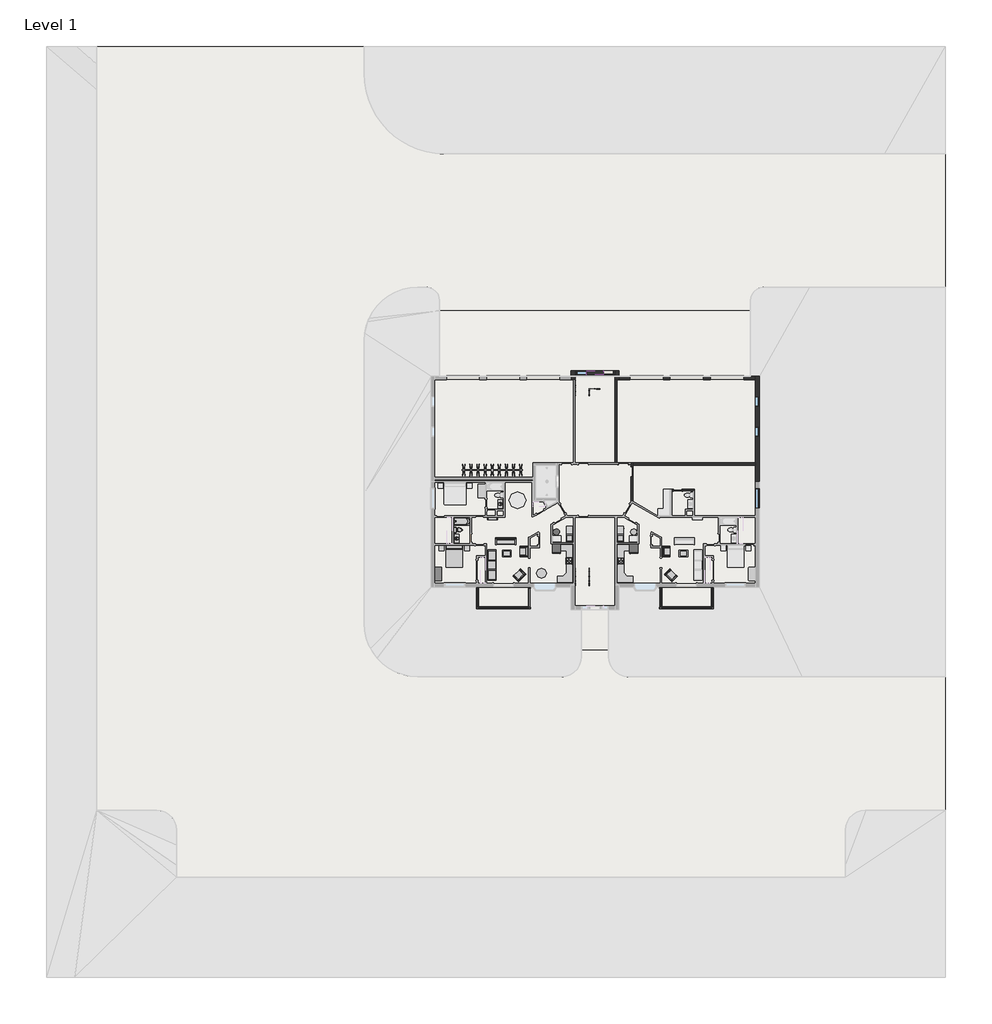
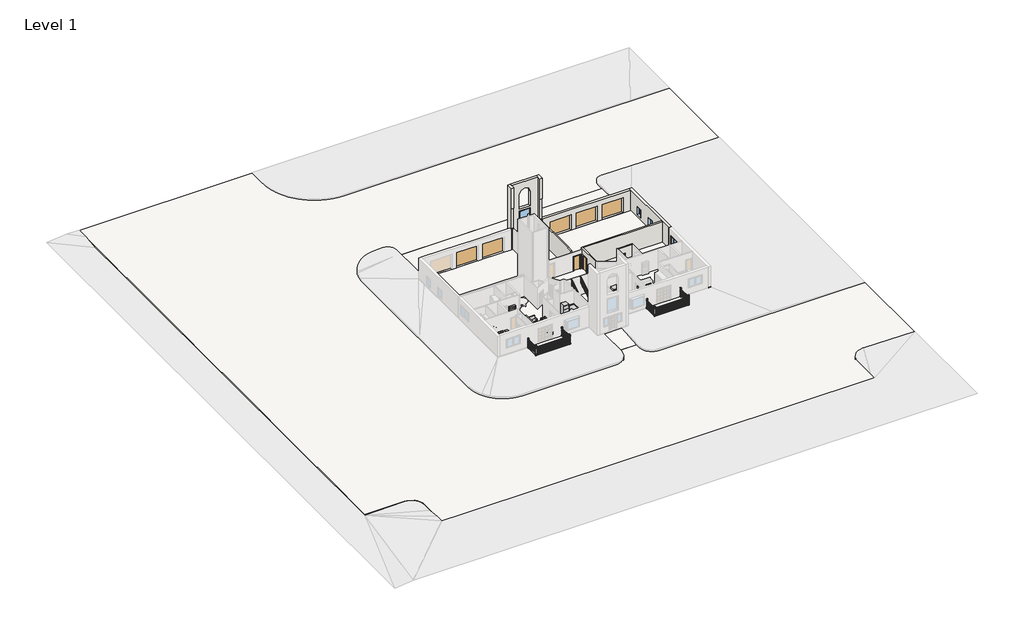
# One storey, part 3 of 4: 18 furniture elements, 15 walls, 9 doors, 8 proxies, 6 railings, 6 slabs, 5 flow terminals, 5 windows.
"""IFC4 building model written with IfcOpenShell, lengths in millimetres."""

from ifc_helpers import new_model, si_unit, point, frame, frame_2d, origin, origin_with_axes, place, context, project, spatial, polyline, circle_curve, trimmed, segment, composite_curve, outline, extrude, faceted_brep, transform, mapped, element, save
from components import proxy_b4d0e45e, proxy_547a9969, proxy_ce4ccb0f, proxy_6e71702f, proxy_a13a33b2, proxy_43ed8386, proxy_718fa39f, proxy_1604710b, overhead_sectional_10_x_8_f8e7c13f, overhead_sectional_10_x_8_1248f1e6, door_39079f6b, door_51669b0d, door_a9778593, flow_terminal_ef44dd1b, flow_terminal_a1ff1c74, flow_terminal_0fc377b3, toilet_domestic_3d_toilet_domestic_3d_f7549cf7, toilet_domestic_3d_toilet_domestic_3d_183bbd19, water_heater_water_heater_e0cc5f81, furniture_e1791683, chair_corbu_chair_corbu_2764bdef, chair_corbu_chair_corbu_95fad79a, furniture_eb782f3a, furniture_bfc3851b, furniture_41abb01d, furniture_3fdbe070, furniture_2babcf72, entertainment_center_entertainment_center_59f9536b, furniture_417d203a, furniture_a4ffab56, furniture_5f90431c, furniture_32e53e92, furniture_905aceb5, furniture_097b63cf, furniture_50b11ffb, railing_9fa31439, railing_f539a773, railing_9861355d, railing_b1776e66, handrail_rectangular_7fb33515, handrail_rectangular_47b17547, handrail_rectangular_1c47a4d4, handrail_rectangular_6b034ff7, window_801eb773, window_c3f4fc83, window_0e2fc6ce, window_69481220

model = new_model("IFC4")

# Units and contexts
model_context = context("Model", 3, world=origin())
ifc_project = project(units=[si_unit("LENGTHUNIT", "METRE", prefix="MILLI")], contexts=[model_context])

# Site, building, storey
site = spatial("IfcSite", under=ifc_project)
building = spatial("IfcBuilding", under=site)
storey = spatial("IfcBuildingStorey", under=building, Name="Level 1", Elevation=0.0)

# Proxies
placement = place(None, origin())
proxy_shape = proxy_b4d0e45e(model_context)
element("IfcBuildingElementProxy", 1, Name="Dryer : 27\" x 25\" x 35\"", ObjectType="Dryer : 27\" x 25\" x 35\"", at=placement, inside=storey, context=model_context, shape_type="MappedRepresentation", body=[
    mapped(proxy_shape, transform((-3234.3985436, -2231.7690464, 0.0), x_axis=(0.0, -1.0, 0.0), y_axis=(1.0, 0.0, 0.0), z_axis=(0.0, 0.0, 1.0))),
])
proxy_2_shape = proxy_547a9969(model_context)
element("IfcBuildingElementProxy", 2, Name="Dryer : 27\" x 25\" x 35\"", ObjectType="Dryer : 27\" x 25\" x 35\"", at=placement, inside=storey, context=model_context, shape_type="MappedRepresentation", body=[
    mapped(proxy_2_shape, transform((1970.098464, -2231.7690464, 0.0), x_axis=(0.0, -1.0, 0.0), y_axis=(1.0, 0.0, 0.0), z_axis=(0.0, 0.0, 1.0))),
])
proxy_3_shape = proxy_ce4ccb0f(model_context)
element("IfcBuildingElementProxy", 3, Name="Range : 24\" x 24\"", ObjectType="Range : 24\" x 24\"", at=placement, inside=storey, context=model_context, shape_type="MappedRepresentation", body=[
    mapped(proxy_3_shape, transform((-3276.9250398, -5133.6661799, 0.0), x_axis=(0.0, -1.0, 0.0), y_axis=(1.0, 0.0, 0.0), z_axis=(0.0, 0.0, 1.0))),
])
proxy_4_shape = proxy_6e71702f(model_context)
element("IfcBuildingElementProxy", 4, Name="Range : 24\" x 24\"", ObjectType="Range : 24\" x 24\"", at=placement, inside=storey, context=model_context, shape_type="MappedRepresentation", body=[
    mapped(proxy_4_shape, transform((2012.6249602, -5133.6661799, 0.0), x_axis=(0.0, -1.0, 0.0), y_axis=(1.0, 0.0, 0.0), z_axis=(0.0, 0.0, 1.0))),
])
proxy_5_shape = proxy_a13a33b2(model_context)
element("IfcBuildingElementProxy", 5, Name="Refrigerator : 30\" x 32\" RH", ObjectType="Refrigerator : 30\" x 32\" RH", at=placement, inside=storey, context=model_context, shape_type="MappedRepresentation", body=[
    mapped(proxy_5_shape, transform((-4157.9875398, -4328.4151514, 0.0), x_axis=(1.0, 0.0, 0.0), y_axis=(0.0, 1.0, 0.0), z_axis=(0.0, 0.0, 1.0))),
])
proxy_6_shape = proxy_43ed8386(model_context)
element("IfcBuildingElementProxy", 6, Name="Refrigerator : 30\" x 32\" RH", ObjectType="Refrigerator : 30\" x 32\" RH", at=placement, inside=storey, context=model_context, shape_type="MappedRepresentation", body=[
    mapped(proxy_6_shape, transform((2893.6874602, -4328.4151514, 0.0), x_axis=(-1.0, 0.0, 0.0), y_axis=(0.0, -1.0, 0.0), z_axis=(0.0, 0.0, 1.0))),
])
proxy_7_shape = proxy_718fa39f(model_context)
element("IfcBuildingElementProxy", 7, Name="Washer : 27\" x 25\" x 35\"", ObjectType="Washer : 27\" x 25\" x 35\"", at=placement, inside=storey, context=model_context, shape_type="MappedRepresentation", body=[
    mapped(proxy_7_shape, transform((-3198.8871046, -2945.9890343, 0.0), x_axis=(0.0, -1.0, 0.0), y_axis=(1.0, 0.0, 0.0), z_axis=(0.0, 0.0, 1.0))),
])
proxy_8_shape = proxy_1604710b(model_context)
element("IfcBuildingElementProxy", 8, Name="Washer : 27\" x 25\" x 35\"", ObjectType="Washer : 27\" x 25\" x 35\"", at=placement, inside=storey, context=model_context, shape_type="MappedRepresentation", body=[
    mapped(proxy_8_shape, transform((1934.587025, -2945.9890343, 0.0), x_axis=(0.0, -1.0, 0.0), y_axis=(1.0, 0.0, 0.0), z_axis=(0.0, 0.0, 1.0))),
])

# Doors
overhead_sectional_10_x_8_shape = overhead_sectional_10_x_8_f8e7c13f(model_context)
element("IfcDoor", 9, ObjectType="Overhead-Sectional : 10' x 8'", at=placement, inside=storey, context=model_context, shape_type="MappedRepresentation", body=[
    mapped(overhead_sectional_10_x_8_shape, transform((-9010.9750398, 11238.2213201, 0.0), x_axis=(-1.0, 0.0, 0.0), y_axis=(0.0, -1.0, 0.0), z_axis=(0.0, 0.0, 1.0))),
])
element("IfcDoor", 10, ObjectType="Overhead-Sectional : 10' x 8'", at=placement, inside=storey, context=model_context, shape_type="MappedRepresentation", body=[
    mapped(overhead_sectional_10_x_8_shape, transform((-5353.3750398, 11238.2213201, 0.0), x_axis=(-1.0, 0.0, 0.0), y_axis=(0.0, -1.0, 0.0), z_axis=(0.0, 0.0, 1.0))),
])
overhead_sectional_10_x_8_2_shape = overhead_sectional_10_x_8_1248f1e6(model_context)
element("IfcDoor", 11, ObjectType="Overhead-Sectional : 10' x 8'", at=placement, inside=storey, context=model_context, shape_type="MappedRepresentation", body=[
    mapped(overhead_sectional_10_x_8_2_shape, transform((11404.2749602, 11238.2213201, 0.0), x_axis=(1.0, 0.0, 0.0), y_axis=(0.0, 1.0, 0.0), z_axis=(0.0, 0.0, 1.0))),
])
element("IfcDoor", 12, ObjectType="Overhead-Sectional : 10' x 8'", at=placement, inside=storey, context=model_context, shape_type="MappedRepresentation", body=[
    mapped(overhead_sectional_10_x_8_2_shape, transform((7746.6749602, 11238.2213201, 0.0), x_axis=(1.0, 0.0, 0.0), y_axis=(0.0, 1.0, 0.0), z_axis=(0.0, 0.0, 1.0))),
])
element("IfcDoor", 13, ObjectType="Overhead-Sectional : 10' x 8'", at=placement, inside=storey, context=model_context, shape_type="MappedRepresentation", body=[
    mapped(overhead_sectional_10_x_8_2_shape, transform((4089.0749602, 11238.2213201, 0.0), x_axis=(1.0, 0.0, 0.0), y_axis=(0.0, 1.0, 0.0), z_axis=(0.0, 0.0, 1.0))),
])
door_shape = door_39079f6b(model_context)
element("IfcDoor", 14, ObjectType="Single-Flush : 30\" x 80\"", at=placement, inside=storey, context=model_context, shape_type="MappedRepresentation", body=[
    mapped(door_shape, transform((6914.8249602, 1017.8963201, 0.0), x_axis=(-1.0, 0.0, 0.0), y_axis=(0.0, -1.0, 0.0), z_axis=(0.0, 0.0, 1.0))),
])
door_2_shape = door_51669b0d(model_context)
element("IfcDoor", 15, ObjectType="Single-Flush : 36\" x 84\"", at=placement, inside=storey, context=model_context, shape_type="MappedRepresentation", body=[
    mapped(door_2_shape, transform((1961.8249602, 3425.0349624, 0.0), x_axis=(-1.0, 0.0, 0.0), y_axis=(0.0, -1.0, 0.0), z_axis=(0.0, 0.0, 1.0))),
])
element("IfcDoor", 16, ObjectType="Single-Flush : 36\" x 84\"", at=placement, inside=storey, context=model_context, shape_type="MappedRepresentation", body=[
    mapped(door_2_shape, transform((2738.9648827, 2693.1974624, 0.0), x_axis=(0.0, 1.0, 0.0), y_axis=(-1.0, 0.0, 0.0), z_axis=(0.0, 0.0, 1.0))),
])
door_3_shape = door_a9778593(model_context)
element("IfcDoor", 17, ObjectType="Single-Glass 2 : 36\" x 84\"", at=placement, inside=storey, context=model_context, shape_type="MappedRepresentation", body=[
    mapped(door_3_shape, transform((561.6499602, 11715.9922491, 0.0), x_axis=(1.0, 0.0, 0.0), y_axis=(0.0, 1.0, 0.0), z_axis=(0.0, 0.0, 1.0))),
])

# Flow terminals
flow_terminal_shape = flow_terminal_ef44dd1b(model_context)
element("IfcFlowTerminal", 18, ObjectType="Bath_Tubrfa_5482 : 60\"x30\" - Private", at=placement, inside=storey, context=model_context, shape_type="MappedRepresentation", body=[
    mapped(flow_terminal_shape, transform((-13535.3500398, -2207.9036799, 0.0), x_axis=(1.0, 0.0, 0.0), y_axis=(0.0, 1.0, 0.0), z_axis=(0.0, 0.0, 1.0))),
])
flow_terminal_2_shape = flow_terminal_a1ff1c74(model_context)
element("IfcFlowTerminal", 19, ObjectType="Lavatory - Vanity : 30\"x18\" - Private", at=placement, inside=storey, context=model_context, shape_type="MappedRepresentation", body=[
    mapped(flow_terminal_2_shape, transform((-13535.3500398, -3401.7036799, 0.0), x_axis=(1.0, 0.0, 0.0), y_axis=(0.0, 1.0, 0.0), z_axis=(0.0, 0.0, 1.0))),
])
flow_terminal_3_shape = flow_terminal_0fc377b3(model_context)
element("IfcFlowTerminal", 20, ObjectType="Lavatory - Vanity : 30\"x18\" - Private", at=placement, inside=storey, context=model_context, shape_type="MappedRepresentation", body=[
    mapped(flow_terminal_3_shape, transform((-8988.7500398, -237.8161799, 0.0), x_axis=(-1.0, 0.0, 0.0), y_axis=(0.0, -1.0, 0.0), z_axis=(0.0, 0.0, 1.0))),
])
toilet_domestic_3d_toilet_domestic_3d_shape = toilet_domestic_3d_toilet_domestic_3d_f7549cf7(model_context)
toilet_domestic_3d_toilet_domestic_3d_2_shape = toilet_domestic_3d_toilet_domestic_3d_183bbd19(model_context)
element("IfcFlowTerminal", 21, ObjectType="Toilet-Domestic-3D : Toilet-Domestic-3D", at=placement, inside=storey, context=model_context, shape_type="MappedRepresentation", body=[
    mapped(toilet_domestic_3d_toilet_domestic_3d_shape, transform((-13040.6540125, -2614.3036799, 0.0), x_axis=(0.0, 1.0, 0.0), y_axis=(-1.0, 0.0, 0.0), z_axis=(0.0, 0.0, 1.0))),
    mapped(toilet_domestic_3d_toilet_domestic_3d_2_shape, transform((-13040.6540125, -2614.3036799, 0.0), x_axis=(0.0, 1.0, 0.0), y_axis=(-1.0, 0.0, 0.0), z_axis=(0.0, 0.0, 1.0))),
])
water_heater_water_heater_shape = water_heater_water_heater_e0cc5f81(model_context)
element("IfcFlowTerminal", 22, ObjectType="Water Heater : Water Heater", at=placement, inside=storey, context=model_context, shape_type="MappedRepresentation", body=[
    mapped(water_heater_water_heater_shape, transform((-4169.1000398, -2796.5261032, 0.0), x_axis=(0.0, 1.0, 0.0), y_axis=(-1.0, 0.0, 0.0), z_axis=(0.0, 0.0, 1.0))),
])

# Furniture
furniture_shape = furniture_e1791683(model_context)
element("IfcFurniture", 23, ObjectType="Bed-Standard : Queen 60\" x 79\"", at=placement, inside=storey, context=model_context, shape_type="MappedRepresentation", body=[
    mapped(furniture_shape, transform((-13741.7510644, -4962.6585979, 0.0), x_axis=(1.0, 0.0, 0.0), y_axis=(0.0, 1.0, 0.0), z_axis=(0.0, 0.0, 1.0))),
])
chair_corbu_chair_corbu_shape = chair_corbu_chair_corbu_2764bdef(model_context)
element("IfcFurniture", 24, ObjectType="Chair-Corbu : Chair-Corbu", at=placement, inside=storey, context=model_context, shape_type="MappedRepresentation", body=[
    mapped(chair_corbu_chair_corbu_shape, transform((-7464.767053, -6027.7567068, 0.0), x_axis=(-0.7071067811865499, -0.7071067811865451, 0.0), y_axis=(0.7071067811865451, -0.7071067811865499, 0.0), z_axis=(0.0, 0.0, 1.0))),
])
element("IfcFurniture", 25, ObjectType="Chair-Corbu : Chair-Corbu", at=placement, inside=storey, context=model_context, shape_type="MappedRepresentation", body=[
    mapped(chair_corbu_chair_corbu_shape, transform((-7590.214589, -4004.6674094, 0.0), x_axis=(0.0, -1.0, 0.0), y_axis=(1.0, 0.0, 0.0), z_axis=(0.0, 0.0, 1.0))),
])
chair_corbu_chair_corbu_2_shape = chair_corbu_chair_corbu_95fad79a(model_context)
element("IfcFurniture", 26, ObjectType="Chair-Corbu : Chair-Corbu", at=placement, inside=storey, context=model_context, shape_type="MappedRepresentation", body=[
    mapped(chair_corbu_chair_corbu_2_shape, transform((6200.4669734, -6027.7567068, 0.0), x_axis=(0.7071067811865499, -0.7071067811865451, 0.0), y_axis=(0.7071067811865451, 0.7071067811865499, 0.0), z_axis=(0.0, 0.0, 1.0))),
])
element("IfcFurniture", 27, ObjectType="Chair-Corbu : Chair-Corbu", at=placement, inside=storey, context=model_context, shape_type="MappedRepresentation", body=[
    mapped(chair_corbu_chair_corbu_2_shape, transform((6325.9145094, -4004.6674094, 0.0), x_axis=(0.0, -1.0, 0.0), y_axis=(1.0, 0.0, 0.0), z_axis=(0.0, 0.0, 1.0))),
])
furniture_2_shape = furniture_eb782f3a(model_context)
element("IfcFurniture", 28, ObjectType="Counter Top-L Shaped 2 : 24\" Depth", at=placement, inside=storey, context=model_context, shape_type="MappedRepresentation", body=[
    mapped(furniture_2_shape, transform((-2616.5250398, -6270.0038848, 0.0), x_axis=(0.0, 1.0, 0.0), y_axis=(-1.0, 0.0, 0.0), z_axis=(0.0, 0.0, 1.0))),
])
furniture_3_shape = furniture_bfc3851b(model_context)
element("IfcFurniture", 29, ObjectType="Counter Top-L Shaped 2 : 24\" Depth", at=placement, inside=storey, context=model_context, shape_type="MappedRepresentation", body=[
    mapped(furniture_3_shape, transform((1352.2249602, -6270.0038848, 0.0), x_axis=(0.0, 1.0, 0.0), y_axis=(-1.0, 0.0, 0.0), z_axis=(0.0, 0.0, 1.0))),
])
furniture_4_shape = furniture_41abb01d(model_context)
element("IfcFurniture", 30, ObjectType="Counter Top-L Shaped : 24\" Depth", at=placement, inside=storey, context=model_context, shape_type="MappedRepresentation", body=[
    mapped(furniture_4_shape, transform((-2616.5250398, -5089.528475, 0.0), x_axis=(0.0, -1.0, 0.0), y_axis=(1.0, 0.0, 0.0), z_axis=(0.0, 0.0, 1.0))),
])
furniture_5_shape = furniture_3fdbe070(model_context)
element("IfcFurniture", 31, ObjectType="Counter Top-L Shaped : 24\" Depth", at=placement, inside=storey, context=model_context, shape_type="MappedRepresentation", body=[
    mapped(furniture_5_shape, transform((1352.2249602, -5089.528475, 0.0), x_axis=(0.0, -1.0, 0.0), y_axis=(1.0, 0.0, 0.0), z_axis=(0.0, 0.0, 1.0))),
])
furniture_6_shape = furniture_2babcf72(model_context)
element("IfcFurniture", 32, ObjectType="Dresser : 48\" x 60\" x 24\"", at=placement, inside=storey, context=model_context, shape_type="MappedRepresentation", body=[
    mapped(furniture_6_shape, transform((-15317.7379939, -6359.8979201, 0.0), x_axis=(0.0, 1.0, 0.0), y_axis=(-1.0, 0.0, 0.0), z_axis=(0.0, 0.0, 1.0))),
])
entertainment_center_entertainment_center_shape = entertainment_center_entertainment_center_59f9536b(model_context)
element("IfcFurniture", 33, ObjectType="Entertainment Center : Entertainment Center", at=placement, inside=storey, context=model_context, shape_type="MappedRepresentation", body=[
    mapped(entertainment_center_entertainment_center_shape, transform((-9623.7500398, -5817.8786799, 0.0), x_axis=(0.0, -1.0, 0.0), y_axis=(1.0, 0.0, 0.0), z_axis=(0.0, 0.0, 1.0))),
])
furniture_7_shape = furniture_417d203a(model_context)
element("IfcFurniture", 34, ObjectType="Shelving : 36\" x 10\" x 72\"", at=placement, inside=storey, context=model_context, shape_type="MappedRepresentation", body=[
    mapped(furniture_7_shape, transform((-9993.6375398, -1256.9911799, 0.0), x_axis=(1.0, 0.0, 0.0), y_axis=(0.0, 1.0, 0.0), z_axis=(0.0, 0.0, 1.0))),
])
furniture_8_shape = furniture_a4ffab56(model_context)
element("IfcFurniture", 35, ObjectType="Sofa : 72\"", at=placement, inside=storey, context=model_context, shape_type="MappedRepresentation", body=[
    mapped(furniture_8_shape, transform((-8844.8080316, -3805.0327783, 0.0), x_axis=(1.0, 0.0, 0.0), y_axis=(0.0, 1.0, 0.0), z_axis=(0.0, 0.0, 1.0))),
])
furniture_9_shape = furniture_5f90431c(model_context)
element("IfcFurniture", 36, ObjectType="Table-Coffee : 31\" x 28\" x 24\"", at=placement, inside=storey, context=model_context, shape_type="MappedRepresentation", body=[
    mapped(furniture_9_shape, transform((-8603.026462, -4770.9319466, 0.0), x_axis=(0.0, 1.0, 0.0), y_axis=(-1.0, 0.0, 0.0), z_axis=(0.0, 0.0, 1.0))),
])
furniture_10_shape = furniture_32e53e92(model_context)
element("IfcFurniture", 37, ObjectType="Table-Coffee : 31\" x 28\" x 24\"", at=placement, inside=storey, context=model_context, shape_type="MappedRepresentation", body=[
    mapped(furniture_10_shape, transform((7338.7263824, -4770.9319466, 0.0), x_axis=(0.0, 1.0, 0.0), y_axis=(-1.0, 0.0, 0.0), z_axis=(0.0, 0.0, 1.0))),
])
furniture_11_shape = furniture_905aceb5(model_context)
element("IfcFurniture", 38, ObjectType="Table-Dining Round w Chairs : 36\" Diameter", at=placement, inside=storey, context=model_context, shape_type="MappedRepresentation", body=[
    mapped(furniture_11_shape, transform((-5558.4272921, -6771.2218764, 0.0), x_axis=(-0.7071067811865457, 0.7071067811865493, 0.0), y_axis=(-0.7071067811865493, -0.7071067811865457, 0.0), z_axis=(0.0, 0.0, 1.0))),
])
furniture_12_shape = furniture_097b63cf(model_context)
element("IfcFurniture", 39, ObjectType="Table-Night Stand : 18\" x 18\" x 24\"", at=placement, inside=storey, context=model_context, shape_type="MappedRepresentation", body=[
    mapped(furniture_12_shape, transform((-14845.5961701, -4524.0661799, 0.0), x_axis=(1.0, 0.0, 0.0), y_axis=(0.0, 1.0, 0.0), z_axis=(0.0, 0.0, 1.0))),
])
furniture_13_shape = furniture_50b11ffb(model_context)
element("IfcFurniture", 40, ObjectType="Table-Night Stand : 18\" x 18\" x 24\"", at=placement, inside=storey, context=model_context, shape_type="MappedRepresentation", body=[
    mapped(furniture_13_shape, transform((-12094.9289095, -4524.0661799, 0.0), x_axis=(-1.0, 0.0, 0.0), y_axis=(0.0, -1.0, 0.0), z_axis=(0.0, 0.0, 1.0))),
])

# Railings
railing_shape = railing_9fa31439(model_context)
railing_2_shape = railing_f539a773(model_context)
element("IfcRailing", 41, ObjectType="Deco Type", at=placement, inside=storey, context=model_context, shape_type="MappedRepresentation", body=[
    mapped(railing_shape, transform((0.0, 0.0, 0.0), x_axis=(1.0, 0.0, 0.0), y_axis=(0.0, 1.0, 0.0), z_axis=(0.0, 0.0, 1.0))),
    mapped(railing_2_shape, transform((0.0, 0.0, 0.0), x_axis=(1.0, 0.0, 0.0), y_axis=(0.0, 1.0, 0.0), z_axis=(0.0, 0.0, 1.0))),
])
railing_3_shape = railing_9861355d(model_context)
railing_4_shape = railing_b1776e66(model_context)
element("IfcRailing", 42, ObjectType="Deco Type", at=placement, inside=storey, context=model_context, shape_type="MappedRepresentation", body=[
    mapped(railing_3_shape, transform((0.0, 0.0, 0.0), x_axis=(1.0, 0.0, 0.0), y_axis=(0.0, 1.0, 0.0), z_axis=(0.0, 0.0, 1.0))),
    mapped(railing_4_shape, transform((0.0, 0.0, 0.0), x_axis=(1.0, 0.0, 0.0), y_axis=(0.0, 1.0, 0.0), z_axis=(0.0, 0.0, 1.0))),
])
handrail_rectangular_shape = handrail_rectangular_7fb33515(model_context)
element("IfcRailing", 43, ObjectType="Handrail - Rectangular", at=placement, inside=storey, context=model_context, shape_type="MappedRepresentation", body=[
    mapped(handrail_rectangular_shape, transform((0.0, 0.0, 0.0), x_axis=(1.0, 0.0, 0.0), y_axis=(0.0, 1.0, 0.0), z_axis=(0.0, 0.0, 1.0))),
])
handrail_rectangular_2_shape = handrail_rectangular_47b17547(model_context)
element("IfcRailing", 44, ObjectType="Handrail - Rectangular", at=placement, inside=storey, context=model_context, shape_type="MappedRepresentation", body=[
    mapped(handrail_rectangular_2_shape, transform((0.0, 0.0, 0.0), x_axis=(1.0, 0.0, 0.0), y_axis=(0.0, 1.0, 0.0), z_axis=(0.0, 0.0, 1.0))),
])
handrail_rectangular_3_shape = handrail_rectangular_1c47a4d4(model_context)
element("IfcRailing", 45, ObjectType="Handrail - Rectangular", at=placement, inside=storey, context=model_context, shape_type="MappedRepresentation", body=[
    mapped(handrail_rectangular_3_shape, transform((0.0, 0.0, 0.0), x_axis=(1.0, 0.0, 0.0), y_axis=(0.0, 1.0, 0.0), z_axis=(0.0, 0.0, 1.0))),
])
handrail_rectangular_4_shape = handrail_rectangular_6b034ff7(model_context)
element("IfcRailing", 46, ObjectType="Handrail - Rectangular", at=placement, inside=storey, context=model_context, shape_type="MappedRepresentation", body=[
    mapped(handrail_rectangular_4_shape, transform((0.0, 0.0, 0.0), x_axis=(1.0, 0.0, 0.0), y_axis=(0.0, 1.0, 0.0), z_axis=(0.0, 0.0, 1.0))),
])

# Slabs
element("IfcSlab", 47, ObjectType="Generic - 12\"", at=placement, inside=storey, context=model_context, shape_type="SweptSolid", body=[
    extrude(outline(polyline([(-11387.4625398, -7635.5661799), (-15424.4750398, -7635.5661799), (-15424.4750398, 1744.9713201), (-6331.2750398, 1744.9713201), (-6331.2750398, 41.0951778), (-5327.4917096, 41.0951778), (-4955.4044712, -603.3788241), (-3977.9107726, -39.0225741), (-3207.8085908, -1372.8786799), (-2589.5375398, -1372.8786799), (-2589.5375398, -7635.5661799), (-6578.9250398, -7635.5661799), (-6578.9250398, -9769.1661799), (-11387.4625398, -9769.1661799), (-11387.4625398, -7635.5661799)])), frame((0.0, 0.0, -304.8), z_axis=(0.0, 0.0, 1.0), x_axis=(1.0, 0.0, 0.0)), (0.0, 0.0, 1.0), 304.8),
])
element("IfcSlab", 48, ObjectType="Generic - 12\"", at=placement, inside=storey, context=model_context, shape_type="SweptSolid", body=[
    extrude(outline(polyline([(10123.1624602, -7470.4661799), (10123.1624602, -9769.1661799), (5314.6249602, -9769.1661799), (5314.6249602, -7470.4661799), (1274.4374602, -7470.4661799), (1274.4374602, -1372.8786799), (1943.5085112, -1372.8786799), (2721.548193, -25.2744208), (5088.6628062, -1391.9286799), (13995.0749602, -1391.9286799), (13995.0749602, -7470.4661799), (10123.1624602, -7470.4661799)])), frame((0.0, 0.0, -304.8), z_axis=(0.0, 0.0, 1.0), x_axis=(1.0, 0.0, 0.0)), (0.0, 0.0, 1.0), 304.8),
])
element("IfcSlab", 49, ObjectType="Generic - 12\"", at=placement, inside=storey, context=model_context, shape_type="SweptSolid", body=[
    extrude(outline(polyline([(-15259.3750398, 11062.0088201), (-2460.9500398, 11062.0088201), (-2460.9500398, 11539.7797491), (1196.6499602, 11539.7797491), (1196.6499602, 11062.0088201), (13995.0749602, 11062.0088201), (13995.0749602, -1391.9286799), (5072.7878062, -1391.9286799), (2717.579443, -32.1484974), (1943.5085112, -1372.8786799), (1274.4374602, -1372.8786799), (1274.4374602, -7635.5661799), (1196.6499602, -7635.5661799), (1196.6499602, -9538.4234666), (-2460.9500398, -9538.4234666), (-2460.9500398, -7635.5661799), (-2538.7375398, -7635.5661799), (-2538.7375398, -1372.8786799), (-3207.8085908, -1372.8786799), (-3931.8274624, -118.8412087), (-3931.8274624, 3496.4724624), (-6277.3000398, 3496.4724624), (-6277.3000398, 1795.7713201), (-15259.3750398, 1795.7713201), (-15259.3750398, 11062.0088201)])), frame((0.0, 0.0, -304.8), z_axis=(0.0, 0.0, 1.0), x_axis=(1.0, 0.0, 0.0)), (0.0, 0.0, 1.0), 304.8),
])
element("IfcSlab", 50, ObjectType="Parking", at=placement, inside=storey, context=model_context, shape_type="SweptSolid", body=[
    extrude(outline(composite_curve([segment(polyline([(-46091.8000398, -28178.8484666), (-46091.8000398, 41455.0931951), (-21707.8000398, 41455.0931951), (-21707.8000398, 39016.6931951)]), True, "CONTINUOUS"), segment(trimmed(circle_curve(frame_2d((-14392.6000398, 39016.6931951)), 7315.2), [point((-21707.8000398, 39016.6931951))], [point((-14392.6000398, 31701.4931951))], True, "CARTESIAN"), True, "CONTINUOUS"), segment(polyline([(-14392.6000398, 31701.4931951), (31327.3999602, 31701.4931951), (31327.3999602, 19509.4931951), (14757.0749602, 19509.4931951)]), True, "CONTINUOUS"), segment(trimmed(circle_curve(frame_2d((14757.0749602, 18290.2931951)), 1219.2), [point((14757.0749602, 19509.4931951))], [point((13537.8749602, 18290.2931951))], True, "CARTESIAN"), True, "CONTINUOUS"), segment(polyline([(13537.8749602, 18290.2931951), (13537.8749602, 17378.6047491), (-14802.1750398, 17378.6047491), (-14802.1750398, 18290.2931951)]), True, "CONTINUOUS"), segment(trimmed(circle_curve(frame_2d((-16021.3750398, 18290.2931951)), 1219.2), [point((-14802.1750398, 18290.2931951))], [point((-16021.3750398, 19509.4931951))], True, "CARTESIAN"), True, "CONTINUOUS"), segment(polyline([(-16021.3750398, 19509.4931951), (-16831.0000398, 19509.4931951)]), True, "CONTINUOUS"), segment(trimmed(circle_curve(frame_2d((-16831.0000398, 14632.6931951)), 4876.8), [point((-16831.0000398, 19509.4931951))], [point((-21707.8000398, 14632.6931951))], True, "CARTESIAN"), True, "CONTINUOUS"), segment(polyline([(-21707.8000398, 14632.6931951), (-21707.8000398, -11110.0484666)]), True, "CONTINUOUS"), segment(trimmed(circle_curve(frame_2d((-16831.0000398, -11110.0484666)), 4876.8), [point((-21707.8000398, -11110.0484666))], [point((-16831.0000398, -15986.8484666))], True, "CARTESIAN"), True, "CONTINUOUS"), segment(polyline([(-16831.0000398, -15986.8484666), (-3680.1500398, -15986.8484666)]), True, "CONTINUOUS"), segment(trimmed(circle_curve(frame_2d((-3680.1500398, -14158.0484666)), 1828.8), [point((-3680.1500398, -15986.8484666))], [point((-1851.3500398, -14158.0484666))], True, "CARTESIAN"), True, "CONTINUOUS"), segment(polyline([(-1851.3500398, -14158.0484666), (-1851.3500398, -13548.4484666), (587.0499602, -13548.4484666), (587.0499602, -14158.0484666)]), True, "CONTINUOUS"), segment(trimmed(circle_curve(frame_2d((2415.8499602, -14158.0484666)), 1828.8), [point((587.0499602, -14158.0484666))], [point((2415.8499602, -15986.8484666))], True, "CARTESIAN"), True, "CONTINUOUS"), segment(polyline([(2415.8499602, -15986.8484666), (31327.3999602, -15986.8484666), (31327.3999602, -28178.8484666), (24012.1999602, -28178.8484666)]), True, "CONTINUOUS"), segment(trimmed(circle_curve(frame_2d((24012.1999602, -30007.6484666)), 1828.8), [point((24012.1999602, -28178.8484666))], [point((22183.3999602, -30007.6484666))], True, "CARTESIAN"), True, "CONTINUOUS"), segment(polyline([(22183.3999602, -30007.6484666), (22183.3999602, -34274.8484666), (-38776.6000398, -34274.8484666), (-38776.6000398, -30007.6484666)]), True, "CONTINUOUS"), segment(trimmed(circle_curve(frame_2d((-40605.4000398, -30007.6484666)), 1828.8), [point((-38776.6000398, -30007.6484666))], [point((-40605.4000398, -28178.8484666))], True, "CARTESIAN"), True, "CONTINUOUS"), segment(polyline([(-40605.4000398, -28178.8484666), (-46091.8000398, -28178.8484666)]), True, "CONTINUOUS")], self_intersect=False)), frame((0.0, 0.0, -711.2), z_axis=(0.0, 0.0, 1.0), x_axis=(1.0, 0.0, 0.0)), (0.0, 0.0, 1.0), 304.8),
])
element("IfcSlab", 51, ObjectType="Parking", at=placement, inside=storey, context=model_context, shape_type="SweptSolid", body=[
    extrude(outline(polyline([(17378.6047491, -711.5977695), (11414.4338201, -406.7977695), (11414.4338201, -101.6), (17378.6047491, -406.4), (17378.6047491, -711.5977695)])), frame((-14802.1750398, 0.0, 0.0), z_axis=(1.0, 0.0, 0.0), x_axis=(0.0, 1.0, 0.0)), (0.0, 0.0, 1.0), 28340.05),
])
element("IfcSlab", 52, ObjectType="Parking", at=placement, inside=storey, context=model_context, shape_type="SweptSolid", body=[
    extrude(outline(polyline([(-9916.2484666, -407.4713043), (-13548.4484666, -712.2713043), (-13548.4484666, -406.4), (-9916.2484666, -101.6), (-9916.2484666, -407.4713043)])), frame((-1851.3500398, 0.0, 0.0), z_axis=(1.0, 0.0, 0.0), x_axis=(0.0, 1.0, 0.0)), (0.0, 0.0, 1.0), 2438.4),
])

# Walls
element("IfcWall", 53, ObjectType="Exterior - Brick on Mtl. Stud", at=placement, inside=storey, context=model_context, shape_type="Brep", body=[
    faceted_brep([(-2460.9500398, 11062.0088201, 0.0), (-2460.9500398, 11539.7797491, 0.0), (-2460.9500398, 11892.2047491, 0.0), (-2460.9500398, 11892.2047491, 9144.0), (-2460.9500398, 11539.7797491, 9144.0), (-2460.9500398, 11062.0088201, 9144.0), (-2460.9500398, 11062.0088201, 6096.0), (-2460.9500398, 11238.2213201, 6096.0), (-2460.9500398, 11238.2213201, 3048.0), (-2460.9500398, 11062.0088201, 3048.0), (-2813.3750398, 11062.0088201, 0.0), (-2813.3750398, 11062.0088201, 3048.0), (-2813.3750398, 11238.2213201, 3048.0), (-2813.3750398, 11238.2213201, 6096.0), (-2813.3750398, 11062.0088201, 6096.0), (-2813.3750398, 11062.0088201, 9144.0), (-2813.3750398, 11414.4338201, 9144.0), (-2813.3750398, 11892.2047491, 9144.0), (-2813.3750398, 11892.2047491, 0.0), (-2813.3750398, 11414.4338201, 0.0), (-2616.5250398, 11062.0088201, 0.0), (-2616.5250398, 11062.0088201, 9144.0), (-2616.5250398, 11238.2213201, 3048.0), (-2616.5250398, 11062.0088201, 3048.0), (-2616.5250398, 11238.2213201, 6096.0), (-2616.5250398, 11062.0088201, 6096.0)], [[[0, 1, 2, 3, 4, 5, 6, 7, 8, 9]], [[10, 11, 12, 13, 14, 15, 16, 17, 18, 19]], [[2, 1, 0, 20, 10, 19, 18]], [[5, 4, 3, 17, 16, 15, 21]], [[3, 2, 18, 17]], [[8, 22, 12, 11, 23, 9]], [[8, 7, 24, 13, 12, 22]], [[6, 25, 14, 13, 24, 7]], [[0, 9, 23, 11, 10, 20]], [[6, 5, 21, 15, 14, 25]]]),
])
element("IfcWall", 54, ObjectType="Exterior - Brick on Mtl. Stud", at=placement, inside=storey, context=model_context, shape_type="SweptSolid", body=[
    extrude(outline(polyline([(9144.0, 1196.6499602), (9144.0, -2460.9500398), (0.0, -2460.9500398), (0.0, 129.8499602), (2133.6, 129.8499602), (2133.6, 1044.2499602), (0.0, 1044.2499602), (0.0, 1196.6499602), (9144.0, 1196.6499602)]), holes=[polyline([(4963.8857143, 129.8499602), (2830.2857143, 129.8499602), (2830.2857143, -1394.1500398), (4963.8857143, -1394.1500398), (4963.8857143, 129.8499602)]), polyline([(914.4, -2308.5500398), (2133.6, -2308.5500398), (2133.6, -1394.1500398), (914.4, -1394.1500398), (914.4, -2308.5500398)]), composite_curve([segment(polyline([(5268.6857143, -1394.1500398), (7421.3357143, -1394.1500398)]), True, "CONTINUOUS"), segment(trimmed(circle_curve(frame_2d((7421.3357143, -632.1500398)), 762.0), [point((7421.3357143, -1394.1500398))], [point((7421.3357143, 129.8499602))], True, "CARTESIAN"), True, "CONTINUOUS"), segment(polyline([(7421.3357143, 129.8499602), (5268.6857143, 129.8499602), (5268.6857143, -1394.1500398)]), True, "CONTINUOUS")], self_intersect=False)]), frame((0.0, 11539.7797491, 0.0), z_axis=(0.0, 1.0, 0.0), x_axis=(0.0, 0.0, 1.0)), (0.0, 0.0, 1.0), 352.425),
])
element("IfcWall", 55, ObjectType="Exterior - Brick on Mtl. Stud", at=placement, inside=storey, context=model_context, shape_type="Brep", body=[
    faceted_brep([(1196.6499602, 11892.2047491, 0.0), (1196.6499602, 11539.7797491, 0.0), (1196.6499602, 11062.0088201, 0.0), (1196.6499602, 11062.0088201, 3048.0), (1196.6499602, 11238.2213201, 3048.0), (1196.6499602, 11238.2213201, 6096.0), (1196.6499602, 11062.0088201, 6096.0), (1196.6499602, 11062.0088201, 9144.0), (1196.6499602, 11539.7797491, 9144.0), (1196.6499602, 11892.2047491, 9144.0), (1549.0749602, 11892.2047491, 0.0), (1549.0749602, 11892.2047491, 9144.0), (1549.0749602, 11414.4338201, 9144.0), (1549.0749602, 11062.0088201, 9144.0), (1549.0749602, 11062.0088201, 6096.0), (1549.0749602, 11238.2213201, 6096.0), (1549.0749602, 11238.2213201, 3048.0), (1549.0749602, 11062.0088201, 3048.0), (1549.0749602, 11062.0088201, 0.0), (1549.0749602, 11414.4338201, 0.0), (1352.2249602, 11062.0088201, 0.0), (1352.2249602, 11062.0088201, 9144.0), (1352.2249602, 11238.2213201, 3048.0), (1352.2249602, 11062.0088201, 3048.0), (1352.2249602, 11238.2213201, 6096.0), (1352.2249602, 11062.0088201, 6096.0)], [[[0, 1, 2, 3, 4, 5, 6, 7, 8, 9]], [[10, 11, 12, 13, 14, 15, 16, 17, 18, 19]], [[2, 1, 0, 10, 19, 18, 20]], [[9, 8, 7, 21, 13, 12, 11]], [[0, 9, 11, 10]], [[16, 22, 4, 3, 23, 17]], [[3, 2, 20, 18, 17, 23]], [[5, 4, 22, 16, 15, 24]], [[14, 25, 6, 5, 24, 15]], [[7, 6, 25, 14, 13, 21]]]),
])
element("IfcWall", 56, ObjectType="Exterior - Brick on Mtl. Stud", at=placement, inside=storey, context=model_context, shape_type="Brep", body=[
    faceted_brep([(1549.0749602, 11414.4338201, 3048.0), (6794.1749602, 11414.4338201, 3048.0), (8622.9749602, 11414.4338201, 3048.0), (13995.0749602, 11414.4338201, 3048.0), (13995.0749602, 11414.4338201, 0.0), (12928.2749602, 11414.4338201, 0.0), (12928.2749602, 11414.4338201, 2286.0), (9880.2749602, 11414.4338201, 2286.0), (9880.2749602, 11414.4338201, 0.0), (9270.6749602, 11414.4338201, 0.0), (9270.6749602, 11414.4338201, 2286.0), (6222.6749602, 11414.4338201, 2286.0), (6222.6749602, 11414.4338201, 0.0), (5613.0749602, 11414.4338201, 0.0), (5613.0749602, 11414.4338201, 2286.0), (2565.0749602, 11414.4338201, 2286.0), (2565.0749602, 11414.4338201, 0.0), (1549.0749602, 11414.4338201, 0.0), (13995.0749602, 11062.0088201, 3048.0), (8622.9749602, 11062.0088201, 3048.0), (6794.1749602, 11062.0088201, 3048.0), (1549.0749602, 11062.0088201, 3048.0), (1549.0749602, 11062.0088201, 0.0), (2565.0749602, 11062.0088201, 0.0), (2565.0749602, 11062.0088201, 2286.0), (5613.0749602, 11062.0088201, 2286.0), (5613.0749602, 11062.0088201, 0.0), (6222.6749602, 11062.0088201, 0.0), (6222.6749602, 11062.0088201, 2286.0), (9270.6749602, 11062.0088201, 2286.0), (9270.6749602, 11062.0088201, 0.0), (9880.2749602, 11062.0088201, 0.0), (9880.2749602, 11062.0088201, 2286.0), (12928.2749602, 11062.0088201, 2286.0), (12928.2749602, 11062.0088201, 0.0), (13995.0749602, 11062.0088201, 0.0), (1549.0749602, 11238.2213201, 3048.0)], [[[0, 1, 2, 3, 4, 5, 6, 7, 8, 9, 10, 11, 12, 13, 14, 15, 16, 17]], [[18, 19, 20, 21, 22, 23, 24, 25, 26, 27, 28, 29, 30, 31, 32, 33, 34, 35]], [[4, 35, 34, 5]], [[22, 17, 16, 23]], [[8, 31, 30, 9]], [[12, 27, 26, 13]], [[3, 2, 1, 0, 36, 21, 20, 19, 18]], [[4, 3, 18, 35]], [[0, 17, 22, 21, 36]], [[33, 6, 5, 34]], [[6, 33, 32, 7]], [[7, 32, 31, 8]], [[29, 10, 9, 30]], [[10, 29, 28, 11]], [[11, 28, 27, 12]], [[25, 14, 13, 26]], [[14, 25, 24, 15]], [[15, 24, 23, 16]]]),
])
element("IfcWall", 57, ObjectType="Exterior - Brick on Mtl. Stud", at=placement, inside=storey, context=model_context, shape_type="Brep", body=[
    faceted_brep([(14347.4999602, 1795.7713201, 0.0), (14347.4999602, 11414.4338201, 0.0), (14347.4999602, 11414.4338201, 3048.0), (14347.4999602, 1795.7713201, 3048.0), (14347.4999602, 6794.8088201, 1524.0), (14347.4999602, 6794.8088201, 304.8), (14347.4999602, 5880.4088201, 304.8), (14347.4999602, 5880.4088201, 1524.0), (14347.4999602, 9538.0088201, 1524.0), (14347.4999602, 9538.0088201, 304.8), (14347.4999602, 8623.6088201, 304.8), (14347.4999602, 8623.6088201, 1524.0), (13995.0749602, 1795.7713201, 0.0), (13995.0749602, 1795.7713201, 3048.0), (13995.0749602, 3302.7974624, 3048.0), (13995.0749602, 3496.4724624, 3048.0), (13995.0749602, 11062.0088201, 3048.0), (13995.0749602, 11414.4338201, 3048.0), (13995.0749602, 11414.4338201, 0.0), (13995.0749602, 11062.0088201, 0.0), (13995.0749602, 3496.4724624, 0.0), (13995.0749602, 3302.7974624, 0.0), (13995.0749602, 6794.8088201, 1524.0), (13995.0749602, 5880.4088201, 1524.0), (13995.0749602, 5880.4088201, 304.8), (13995.0749602, 6794.8088201, 304.8), (13995.0749602, 9538.0088201, 1524.0), (13995.0749602, 8623.6088201, 1524.0), (13995.0749602, 8623.6088201, 304.8), (13995.0749602, 9538.0088201, 304.8)], [[[0, 1, 2, 3], [4, 5, 6, 7], [8, 9, 10, 11]], [[12, 13, 14, 15, 16, 17, 18, 19, 20, 21], [22, 23, 24, 25], [26, 27, 28, 29]], [[1, 0, 12, 21, 20, 19, 18]], [[3, 2, 17, 16, 15, 14, 13]], [[0, 3, 13, 12]], [[2, 1, 18, 17]], [[5, 4, 22, 25]], [[6, 5, 25, 24]], [[7, 6, 24, 23]], [[4, 7, 23, 22]], [[9, 8, 26, 29]], [[10, 9, 29, 28]], [[11, 10, 28, 27]], [[8, 11, 27, 26]]]),
])
element("IfcWall", 58, ObjectType="Foundation - 12\" Concrete", at=placement, inside=storey, context=model_context, shape_type="Brep", body=[
    faceted_brep([(-15307.0000398, 11109.6338201, -914.4), (-2508.5750398, 11109.6338201, -914.4), (-2508.5750398, 11109.6338201, 0.0), (-15307.0000398, 11109.6338201, 0.0), (-15307.0000398, 11414.4338201, -914.4), (-15307.0000398, 11414.4338201, 0.0), (-2813.3750398, 11414.4338201, 0.0), (-2508.5750398, 11414.4338201, 0.0), (-2508.5750398, 11414.4338201, -914.4), (-2813.3750398, 11414.4338201, -914.4)], [[[0, 1, 2, 3]], [[4, 5, 6, 7, 8, 9]], [[1, 0, 4, 9, 8]], [[3, 2, 7, 6, 5]], [[0, 3, 5, 4]], [[2, 1, 8, 7]]]),
])
element("IfcWall", 59, ObjectType="Foundation - 12\" Concrete", at=placement, inside=storey, context=model_context, shape_type="Brep", body=[
    faceted_brep([(-2508.5750398, 11414.4338201, -914.4), (-2508.5750398, 11587.4047491, -914.4), (-2508.5750398, 11892.2047491, -914.4), (-2508.5750398, 11892.2047491, 0.0), (-2508.5750398, 11587.4047491, 0.0), (-2508.5750398, 11414.4338201, 0.0), (-2813.3750398, 11414.4338201, -914.4), (-2813.3750398, 11414.4338201, 0.0), (-2813.3750398, 11892.2047491, 0.0), (-2813.3750398, 11892.2047491, -914.4)], [[[0, 1, 2, 3, 4, 5]], [[6, 7, 8, 9]], [[2, 1, 0, 6, 9]], [[5, 4, 3, 8, 7]], [[0, 5, 7, 6]], [[3, 2, 9, 8]]]),
])
element("IfcWall", 60, ObjectType="Foundation - 12\" Concrete", at=placement, inside=storey, context=model_context, shape_type="SweptSolid", body=[
    extrude(outline(polyline([(1244.2749602, 11587.4047491), (-2508.5750398, 11587.4047491), (-2508.5750398, 11892.2047491), (1244.2749602, 11892.2047491), (1244.2749602, 11587.4047491)])), frame((0.0, 0.0, -914.4), z_axis=(0.0, 0.0, 1.0), x_axis=(1.0, 0.0, 0.0)), (0.0, 0.0, 1.0), 914.4),
])
element("IfcWall", 61, ObjectType="Foundation - 12\" Concrete", at=placement, inside=storey, context=model_context, shape_type="Brep", body=[
    faceted_brep([(1244.2749602, 11892.2047491, -914.4), (1244.2749602, 11587.4047491, -914.4), (1244.2749602, 11109.6338201, -914.4), (1244.2749602, 11109.6338201, 0.0), (1244.2749602, 11587.4047491, 0.0), (1244.2749602, 11892.2047491, 0.0), (1549.0749602, 11892.2047491, -914.4), (1549.0749602, 11892.2047491, 0.0), (1549.0749602, 11414.4338201, 0.0), (1549.0749602, 11109.6338201, 0.0), (1549.0749602, 11109.6338201, -914.4), (1549.0749602, 11414.4338201, -914.4)], [[[0, 1, 2, 3, 4, 5]], [[6, 7, 8, 9, 10, 11]], [[2, 1, 0, 6, 11, 10]], [[5, 4, 3, 9, 8, 7]], [[0, 5, 7, 6]], [[3, 2, 10, 9]]]),
])
element("IfcWall", 62, ObjectType="Foundation - 12\" Concrete", at=placement, inside=storey, context=model_context, shape_type="Brep", body=[
    faceted_brep([(1549.0749602, 11109.6338201, -914.4), (14042.6999602, 11109.6338201, -914.4), (14347.4999602, 11109.6338201, -914.4), (14347.4999602, 11109.6338201, 0.0), (14042.6999602, 11109.6338201, 0.0), (1549.0749602, 11109.6338201, 0.0), (1549.0749602, 11414.4338201, -914.4), (1549.0749602, 11414.4338201, 0.0), (14347.4999602, 11414.4338201, 0.0), (14347.4999602, 11414.4338201, -914.4)], [[[0, 1, 2, 3, 4, 5]], [[6, 7, 8, 9]], [[2, 1, 0, 6, 9]], [[5, 4, 3, 8, 7]], [[0, 5, 7, 6]], [[3, 2, 9, 8]]]),
])
element("IfcWall", 63, ObjectType="Foundation - 12\" Concrete", at=placement, inside=storey, context=model_context, shape_type="Brep", body=[
    faceted_brep([(14042.6999602, 11109.6338201, -914.4), (14042.6999602, -7518.0911799, -914.4), (14042.6999602, -7822.8911799, -914.4), (14042.6999602, -7822.8911799, 0.0), (14042.6999602, -7518.0911799, 0.0), (14042.6999602, 11109.6338201, 0.0), (14347.4999602, 11109.6338201, -914.4), (14347.4999602, 11109.6338201, 0.0), (14347.4999602, -7822.8911799, 0.0), (14347.4999602, -7822.8911799, -914.4)], [[[0, 1, 2, 3, 4, 5]], [[6, 7, 8, 9]], [[2, 1, 0, 6, 9]], [[5, 4, 3, 8, 7]], [[0, 5, 7, 6]], [[3, 2, 9, 8]]]),
])
element("IfcWall", 64, ObjectType="Generic - 6\" Masonry", at=placement, inside=storey, context=model_context, shape_type="Brep", body=[
    faceted_brep([(2810.4023827, 3150.3974624, 2133.6), (2810.4023827, 3150.3974624, 0.0), (2810.4023827, 3302.7974624, 0.0), (2810.4023827, 3496.4724624, 0.0), (2810.4023827, 3496.4724624, 3048.0), (2810.4023827, 3302.7974624, 3048.0), (2810.4023827, -14.2494496, 3048.0), (2810.4023827, -14.2494496, 0.0), (2810.4023827, 2235.9974624, 0.0), (2810.4023827, 2235.9974624, 2133.6), (2667.5273827, 3496.4724624, 0.0), (2667.5273827, 3353.5974624, 0.0), (2667.5273827, 3150.3974624, 0.0), (2667.5273827, 3150.3974624, 2133.6), (2667.5273827, 2235.9974624, 2133.6), (2667.5273827, 2235.9974624, 0.0), (2667.5273827, 24.0337913, 0.0), (2667.5273827, 24.0337913, 3048.0), (2667.5273827, 3496.4724624, 3048.0), (2667.5273827, 3496.4724624, 2743.2), (2686.6690032, 57.1880504, 0.0), (2686.6690032, 57.1880504, 3048.0)], [[[0, 1, 2, 3, 4, 5, 6, 7, 8, 9]], [[10, 11, 12, 13, 14, 15, 16, 17, 18, 19]], [[8, 7, 20, 16, 15]], [[3, 2, 1, 12, 11, 10]], [[6, 5, 4, 18, 17, 21]], [[7, 6, 21, 20]], [[21, 17, 16, 20]], [[4, 3, 10, 19, 18]], [[13, 12, 1, 0]], [[14, 13, 0, 9]], [[15, 14, 9, 8]]]),
])
element("IfcWall", 65, ObjectType="Generic - 8\" Masonry", at=placement, inside=storey, context=model_context, shape_type="SweptSolid", body=[
    extrude(outline(polyline([(2810.4023827, 3496.4724624), (13995.0749602, 3496.4724624), (13995.0749602, 3302.7974624), (2810.4023827, 3302.7974624), (2810.4023827, 3496.4724624)])), origin_with_axes(), (0.0, 0.0, 1.0), 3048.0),
])
element("IfcWall", 66, ObjectType="Interior - 4 7/8\" Partition (1-hr)", at=placement, inside=storey, context=model_context, shape_type="Brep", body=[
    faceted_brep([(6381.4249602, 955.9838201, 0.0), (6533.8249602, 955.9838201, 0.0), (6533.8249602, 955.9838201, 2032.0), (7295.8249602, 955.9838201, 2032.0), (7295.8249602, 955.9838201, 0.0), (8311.8249602, 955.9838201, 0.0), (8435.6499602, 955.9838201, 0.0), (8435.6499602, 955.9838201, 3048.0), (8311.8249602, 955.9838201, 3048.0), (6381.4249602, 955.9838201, 3048.0), (6533.8249602, 1079.8088201, 2032.0), (6533.8249602, 1079.8088201, 0.0), (6381.4249602, 1079.8088201, 0.0), (6381.4249602, 1079.8088201, 3048.0), (8435.6499602, 1079.8088201, 3048.0), (8435.6499602, 1079.8088201, 0.0), (7295.8249602, 1079.8088201, 0.0), (7295.8249602, 1079.8088201, 2032.0)], [[[0, 1, 2, 3, 4, 5, 6, 7, 8, 9]], [[10, 11, 12, 13, 14, 15, 16, 17]], [[16, 15, 6, 5, 4]], [[12, 11, 1, 0]], [[9, 8, 7, 14, 13]], [[7, 6, 15, 14]], [[0, 9, 13, 12]], [[2, 1, 11, 10]], [[3, 2, 10, 17]], [[4, 3, 17, 16]]]),
])
element("IfcWall", 67, ObjectType="Interior - 6 1/8\" Partition (2-hr)", at=placement, inside=storey, context=model_context, shape_type="Brep", body=[
    faceted_brep([(1352.2249602, 3496.4724624, 0.0), (1352.2249602, 11062.0088201, 0.0), (1352.2249602, 11062.0088201, 3048.0), (1352.2249602, 5035.8588201, 3048.0), (1352.2249602, 3496.4724624, 3048.0), (1196.6499602, 3496.4724624, 0.0), (1196.6499602, 3496.4724624, 3048.0), (1196.6499602, 5035.8588201, 3048.0), (1196.6499602, 11062.0088201, 3048.0), (1196.6499602, 11062.0088201, 0.0)], [[[0, 1, 2, 3, 4]], [[5, 6, 7, 8, 9]], [[1, 0, 5, 9]], [[4, 3, 2, 8, 7, 6]], [[2, 1, 9, 8]], [[0, 4, 6, 5]]]),
])

# Windows
window_shape = window_801eb773(model_context)
element("IfcWindow", 68, ObjectType="Casement Dbl with Trim : 72\" x 48\"", at=placement, inside=storey, context=model_context, shape_type="MappedRepresentation", body=[
    mapped(window_shape, transform((14152.2374602, 255.8963201, -304.8), x_axis=(0.0, 1.0, 0.0), y_axis=(-1.0, 0.0, 0.0), z_axis=(0.0, 0.0, 1.0))),
])
window_2_shape = window_c3f4fc83(model_context)
element("IfcWindow", 69, ObjectType="Casement with Trim : 36\" x 48\"", at=placement, inside=storey, context=model_context, shape_type="MappedRepresentation", body=[
    mapped(window_2_shape, transform((-1851.3500398, 11715.9922491, 0.0), x_axis=(-1.0, 0.0, 0.0), y_axis=(0.0, -1.0, 0.0), z_axis=(0.0, 0.0, 1.0))),
])
window_3_shape = window_0e2fc6ce(model_context)
element("IfcWindow", 70, ObjectType="Fixed : 36\" x 48\"", at=placement, inside=storey, context=model_context, shape_type="MappedRepresentation", body=[
    mapped(window_3_shape, transform((14171.2874602, 9118.9088201, -609.6), x_axis=(0.0, 1.0, 0.0), y_axis=(-1.0, 0.0, 0.0), z_axis=(0.0, 0.0, 1.0))),
])
element("IfcWindow", 71, ObjectType="Fixed : 36\" x 48\"", at=placement, inside=storey, context=model_context, shape_type="MappedRepresentation", body=[
    mapped(window_3_shape, transform((14171.2874602, 6375.7088201, -609.6), x_axis=(0.0, 1.0, 0.0), y_axis=(-1.0, 0.0, 0.0), z_axis=(0.0, 0.0, 1.0))),
])
window_4_shape = window_69481220(model_context)
element("IfcWindow", 72, ObjectType="Fixed : 60\" x 84\"", at=placement, inside=storey, context=model_context, shape_type="MappedRepresentation", body=[
    mapped(window_4_shape, transform((-594.0500398, 11715.9922491, 2525.4857143), x_axis=(1.0, 0.0, 0.0), y_axis=(0.0, 1.0, 0.0), z_axis=(0.0, 0.0, 1.0))),
])

save(model, "model.ifc")
